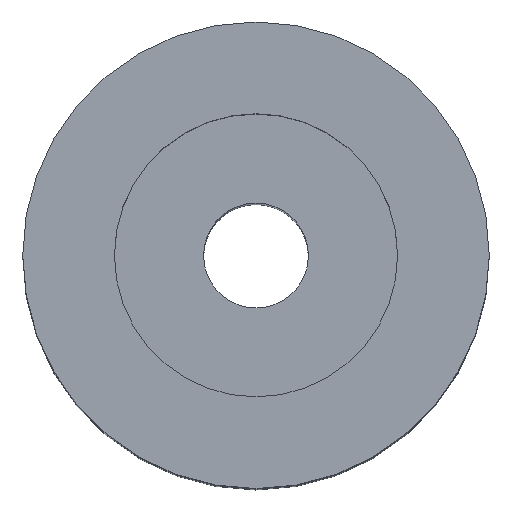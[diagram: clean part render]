
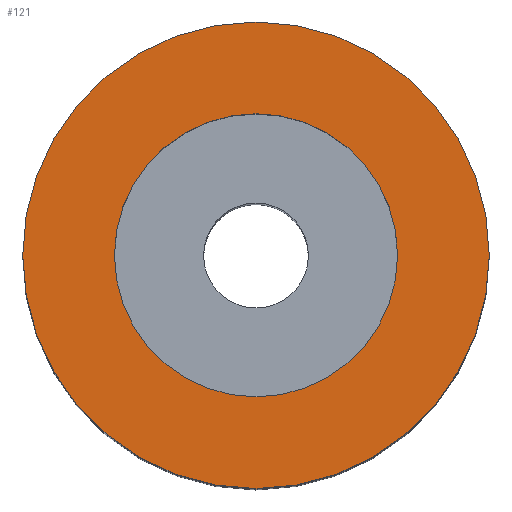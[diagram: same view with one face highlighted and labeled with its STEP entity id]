
A CAD part, top view. The second image highlights one B-rep face of the part: STEP entity #121.
In plain terms, the highlighted planar face has unit normal (0, 0, 1).
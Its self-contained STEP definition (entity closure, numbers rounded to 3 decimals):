
#35 = VERTEX_POINT ( 'NONE', #426 ) ;
#37 = EDGE_CURVE ( 'NONE', #35, #38, #431, .T. ) ;
#38 = VERTEX_POINT ( 'NONE', #428 ) ;
#52 = ORIENTED_EDGE ( 'NONE', *, *, #53, .T. ) ;
#53 = EDGE_CURVE ( 'NONE', #195, #185, #408, .T. ) ;
#54 = ORIENTED_EDGE ( 'NONE', *, *, #192, .T. ) ;
#121 = ADVANCED_FACE ( 'NONE', ( #303, #302 ), #308, .T. ) ;
#122 = EDGE_LOOP ( 'NONE', ( #123, #125 ) ) ;
#123 = ORIENTED_EDGE ( 'NONE', *, *, #124, .F. ) ;
#124 = EDGE_CURVE ( 'NONE', #38, #35, #297, .T. ) ;
#125 = ORIENTED_EDGE ( 'NONE', *, *, #37, .F. ) ;
#126 = EDGE_LOOP ( 'NONE', ( #52, #54 ) ) ;
#185 = VERTEX_POINT ( 'NONE', #456 ) ;
#192 = EDGE_CURVE ( 'NONE', #185, #195, #486, .T. ) ;
#195 = VERTEX_POINT ( 'NONE', #476 ) ;
#293 = DIRECTION ( 'NONE',  ( 1., 0., 0. ) ) ;
#294 = DIRECTION ( 'NONE',  ( 0., 0., 1. ) ) ;
#295 = CARTESIAN_POINT ( 'NONE',  ( 0., 0., 31.2 ) ) ;
#296 = AXIS2_PLACEMENT_3D ( 'NONE', #295, #294, #293 ) ;
#297 = CIRCLE ( 'NONE', #296, 5.4 ) ;
#298 = DIRECTION ( 'NONE',  ( 1., 0., 0. ) ) ;
#299 = DIRECTION ( 'NONE',  ( 0., 0., 1. ) ) ;
#300 = CARTESIAN_POINT ( 'NONE',  ( 0., 0., 31.2 ) ) ;
#301 = AXIS2_PLACEMENT_3D ( 'NONE', #300, #299, #298 ) ;
#302 = FACE_OUTER_BOUND ( 'NONE', #126, .T. ) ;
#303 = FACE_BOUND ( 'NONE', #122, .T. ) ;
#308 = PLANE ( 'NONE',  #301 ) ;
#398 = DIRECTION ( 'NONE',  ( 1., 0., 0. ) ) ;
#399 = DIRECTION ( 'NONE',  ( 0., 0., 1. ) ) ;
#406 = CARTESIAN_POINT ( 'NONE',  ( 0., 0., 31.2 ) ) ;
#407 = AXIS2_PLACEMENT_3D ( 'NONE', #406, #399, #398 ) ;
#408 = CIRCLE ( 'NONE', #407, 8.9 ) ;
#426 = CARTESIAN_POINT ( 'NONE',  ( -5.4, 0., 31.2 ) ) ;
#427 = DIRECTION ( 'NONE',  ( 1., 0., 0. ) ) ;
#428 = CARTESIAN_POINT ( 'NONE',  ( 5.4, 0., 31.2 ) ) ;
#429 = DIRECTION ( 'NONE',  ( 0., 0., 1. ) ) ;
#430 = CARTESIAN_POINT ( 'NONE',  ( 0., 0., 31.2 ) ) ;
#431 = CIRCLE ( 'NONE', #432, 5.4 ) ;
#432 = AXIS2_PLACEMENT_3D ( 'NONE', #430, #429, #427 ) ;
#456 = CARTESIAN_POINT ( 'NONE',  ( 8.9, 0., 31.2 ) ) ;
#476 = CARTESIAN_POINT ( 'NONE',  ( -8.9, 0., 31.2 ) ) ;
#478 = DIRECTION ( 'NONE',  ( 1., 0., 0. ) ) ;
#479 = DIRECTION ( 'NONE',  ( 0., 0., 1. ) ) ;
#480 = CARTESIAN_POINT ( 'NONE',  ( 0., 0., 31.2 ) ) ;
#481 = AXIS2_PLACEMENT_3D ( 'NONE', #480, #479, #478 ) ;
#486 = CIRCLE ( 'NONE', #481, 8.9 ) ;
